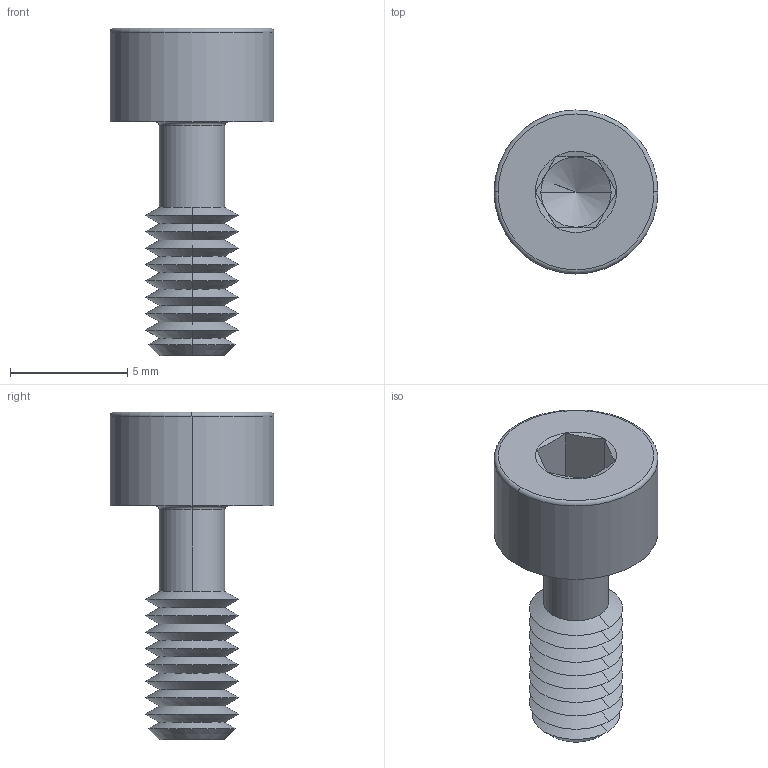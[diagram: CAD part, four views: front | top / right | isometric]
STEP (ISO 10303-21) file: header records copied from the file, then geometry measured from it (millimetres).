
FILE_DESCRIPTION (( 'STEP AP203' ), '1' );
FILE_NAME ('P0154.040-010-BL.step', '2024-06-17T11:23:53', ( '' ), ( '' ), 'SwSTEP 2.0', 'SolidWorks 2019', '' );
FILE_SCHEMA (( 'CONFIG_CONTROL_DESIGN' ));
Length unit declared in the file: millimetre
Products named in the file (1): P0154.040-010-BL
Bounding box: 7 x 7 x 14 mm (x, y, z)
Volume: 208.4 mm3; surface area: 358.6 mm2
Topology: 1 solids, 1 shells, 67 faces, 136 edges, 71 vertices
Faces by surface type: cone 44, plane 15, torus 4, cylinder 4
Entity records: 1787 total; most frequent: DIRECTION 332, CARTESIAN_POINT 299, ORIENTED_EDGE 268, AXIS2_PLACEMENT_3D 136, EDGE_CURVE 134, VERTEX_POINT 71, EDGE_LOOP 69, CIRCLE 68
